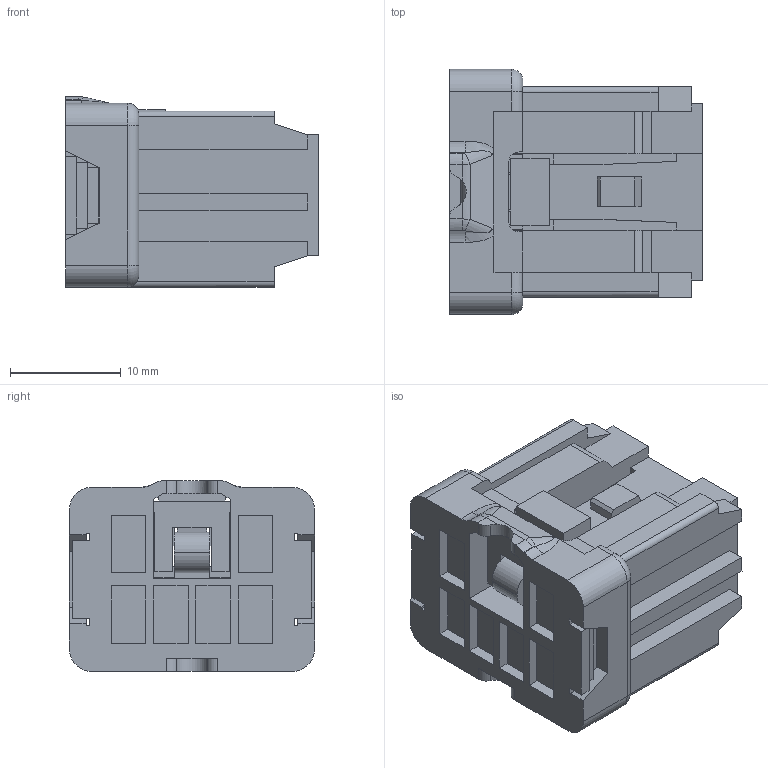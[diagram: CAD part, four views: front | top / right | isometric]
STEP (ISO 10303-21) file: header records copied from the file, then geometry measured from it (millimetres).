
FILE_DESCRIPTION(('CATIA V5 STEP Exchange'),'2;1');
FILE_NAME('N:\C-DAM_MyDesk\ENV\11093U\6098-1009.stp','2013-02-14T01:11:34+00:00',('none'),('none'),'CATIA Version 5 Release 20 SP 4 (IN-10)','CATIA V5 STEP AP203','none');
FILE_SCHEMA(('CONFIG_CONTROL_DESIGN'));
Length unit declared in the file: millimetre
Products named in the file (1): 6098-1009
Bounding box: 22.8 x 22.1 x 17.2 mm (x, y, z)
Volume: 5278.2 mm3; surface area: 3683.5 mm2
Topology: 1 solids, 1 shells, 274 faces, 808 edges, 532 vertices
Faces by surface type: plane 231, cylinder 30, bspline 9, torus 4
Entity records: 8993 total; most frequent: CARTESIAN_POINT 2029, ORIENTED_EDGE 1616, DIRECTION 1146, EDGE_CURVE 808, VECTOR 711, LINE 711, VERTEX_POINT 532, EDGE_LOOP 288
